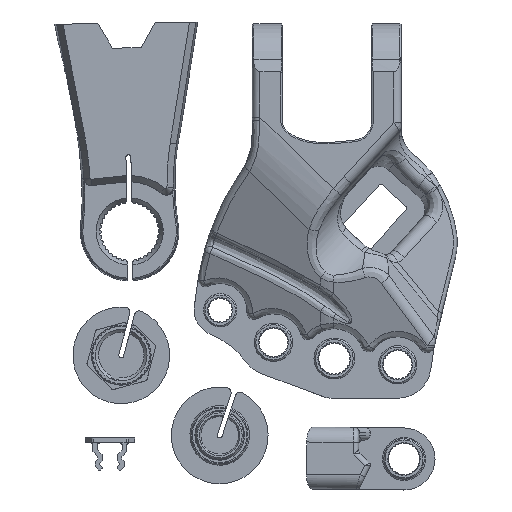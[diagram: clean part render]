
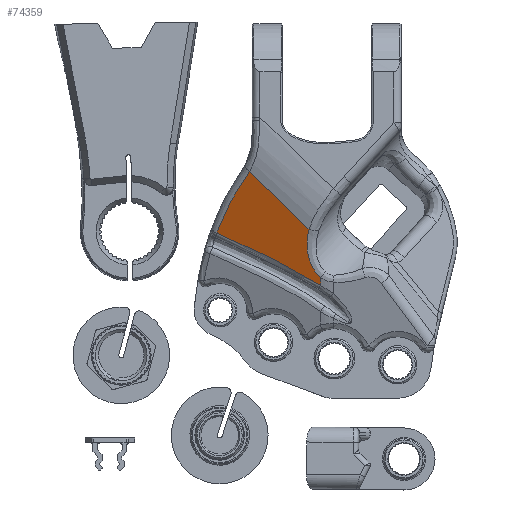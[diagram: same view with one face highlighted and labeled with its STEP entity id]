
A CAD part, top view. The second image highlights one B-rep face of the part: STEP entity #74359.
In plain terms, the highlighted planar face has unit normal (-0.259, -0.265, 0.929) as drawn and (0.259, 0.929, -0.265) by its records, which use the part's own axes.
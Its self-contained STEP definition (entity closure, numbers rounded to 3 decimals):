
#2359 = VERTEX_POINT ( 'NONE', #31658 ) ;
#2468 = CARTESIAN_POINT ( 'NONE',  ( 32.361, 35.515, -14.132 ) ) ;
#3181 = LINE ( 'NONE', #15465, #75759 ) ;
#3231 = CARTESIAN_POINT ( 'NONE',  ( 44.419, 25.636, -36.952 ) ) ;
#7090 = CARTESIAN_POINT ( 'NONE',  ( 30.099, 27.851, -43.166 ) ) ;
#7841 = CARTESIAN_POINT ( 'NONE',  ( 21.353, 29.036, -47.548 ) ) ;
#10307 = B_SPLINE_CURVE_WITH_KNOTS ( 'NONE', 3,
 ( #59610, #44482, #2468, #14774, #15136, #61516, #44095, #55335, #73758, #68003, #43710, #3231 ),
 .UNSPECIFIED., .F., .F.,
 ( 4, 2, 2, 2, 2, 4 ),
 ( 0., 0.004, 0.008, 0.015, 0.023, 0.031 ),
 .UNSPECIFIED. ) ;
#12658 = ORIENTED_EDGE ( 'NONE', *, *, #17133, .T. ) ;
#12860 = CARTESIAN_POINT ( 'NONE',  ( 37.178, 26.829, -39.836 ) ) ;
#12955 = ORIENTED_EDGE ( 'NONE', *, *, #53111, .T. ) ;
#13004 = CARTESIAN_POINT ( 'NONE',  ( -28.758, 36.438, -70.516 ) ) ;
#13014 = VECTOR ( 'NONE', #47370, 1000. ) ;
#13208 = ORIENTED_EDGE ( 'NONE', *, *, #25199, .T. ) ;
#13243 = CARTESIAN_POINT ( 'NONE',  ( 9.224, 30.592, -53.932 ) ) ;
#14774 = CARTESIAN_POINT ( 'NONE',  ( 33.668, 34.586, -16.11 ) ) ;
#15136 = CARTESIAN_POINT ( 'NONE',  ( 34.332, 34.121, -17.092 ) ) ;
#15465 = CARTESIAN_POINT ( 'NONE',  ( 2.543, 32.228, -54.721 ) ) ;
#15844 = FACE_OUTER_BOUND ( 'NONE', #17334, .T. ) ;
#16234 = PLANE ( 'NONE',  #31955 ) ;
#17133 = EDGE_CURVE ( 'NONE', #2359, #59320, #23812, .T. ) ;
#17334 = EDGE_LOOP ( 'NONE', ( #73541, #12955, #39387, #13208, #12658 ) ) ;
#19023 = CARTESIAN_POINT ( 'NONE',  ( 16.127, 29.727, -50.226 ) ) ;
#23812 = LINE ( 'NONE', #13004, #13014 ) ;
#25199 = EDGE_CURVE ( 'NONE', #34650, #2359, #52802, .T. ) ;
#30979 = CARTESIAN_POINT ( 'NONE',  ( 5.827, 30.976, -55.9 ) ) ;
#30985 = CARTESIAN_POINT ( 'NONE',  ( 31.135, 36.438, -12.099 ) ) ;
#31356 = CARTESIAN_POINT ( 'NONE',  ( 19.608, 29.269, -48.434 ) ) ;
#31658 = CARTESIAN_POINT ( 'NONE',  ( 7.196, 36.438, -35.448 ) ) ;
#31955 = AXIS2_PLACEMENT_3D ( 'NONE', #45577, #62958, #44795 ) ;
#32271 = CARTESIAN_POINT ( 'NONE',  ( 7.499, 32.07, -50.442 ) ) ;
#34650 = VERTEX_POINT ( 'NONE', #37295 ) ;
#37295 = CARTESIAN_POINT ( 'NONE',  ( 2.543, 32.189, -54.856 ) ) ;
#37662 = CARTESIAN_POINT ( 'NONE',  ( 2.543, 32.189, -54.856 ) ) ;
#39387 = ORIENTED_EDGE ( 'NONE', *, *, #66370, .T. ) ;
#43541 = EDGE_CURVE ( 'NONE', #59320, #73309, #10307, .T. ) ;
#43710 = CARTESIAN_POINT ( 'NONE',  ( 43.609, 26.489, -34.753 ) ) ;
#44095 = CARTESIAN_POINT ( 'NONE',  ( 37.594, 31.795, -22.049 ) ) ;
#44337 = B_SPLINE_CURVE_WITH_KNOTS ( 'NONE', 3,
 ( #65737, #12860, #7090, #7841, #31356, #19023, #66128, #13243, #30979, #54948 ),
 .UNSPECIFIED., .F., .F.,
 ( 4, 2, 2, 2, 4 ),
 ( 0., 0.024, 0.03, 0.035, 0.047 ),
 .UNSPECIFIED. ) ;
#44482 = CARTESIAN_POINT ( 'NONE',  ( 31.722, 35.979, -13.134 ) ) ;
#44795 = DIRECTION ( 'NONE',  ( 0., -0.275, -0.962 ) ) ;
#45577 = CARTESIAN_POINT ( 'NONE',  ( 0., 20., -100. ) ) ;
#47370 = DIRECTION ( 'NONE',  ( 0.716, 0., 0.698 ) ) ;
#47861 = CARTESIAN_POINT ( 'NONE',  ( 9.176, 33.6, -43.449 ) ) ;
#50632 = DIRECTION ( 'NONE',  ( 0., 0.275, 0.962 ) ) ;
#52802 =( BOUNDED_CURVE ( )  B_SPLINE_CURVE ( 3, ( #37662, #32271, #47861, #71352 ),
 .UNSPECIFIED., .F., .T. ) 
 B_SPLINE_CURVE_WITH_KNOTS ( ( 4, 4 ),
 ( 6.278, 7.235 ),
 .UNSPECIFIED. ) 
 CURVE ( )  GEOMETRIC_REPRESENTATION_ITEM ( )  RATIONAL_B_SPLINE_CURVE ( ( 1., 0.925, 0.925, 1. ) ) 
 REPRESENTATION_ITEM ( '' )  );
#53111 = EDGE_CURVE ( 'NONE', #73309, #67589, #44337, .T. ) ;
#53900 = CARTESIAN_POINT ( 'NONE',  ( 2.543, 31.274, -58.062 ) ) ;
#54948 = CARTESIAN_POINT ( 'NONE',  ( 2.543, 31.274, -58.062 ) ) ;
#55335 = CARTESIAN_POINT ( 'NONE',  ( 39.865, 29.985, -26.171 ) ) ;
#59320 = VERTEX_POINT ( 'NONE', #30985 ) ;
#59610 = CARTESIAN_POINT ( 'NONE',  ( 31.135, 36.438, -12.099 ) ) ;
#61516 = CARTESIAN_POINT ( 'NONE',  ( 36.302, 32.726, -20.053 ) ) ;
#62958 = DIRECTION ( 'NONE',  ( -0.259, -0.929, 0.265 ) ) ;
#65737 = CARTESIAN_POINT ( 'NONE',  ( 44.419, 25.636, -36.952 ) ) ;
#66128 = CARTESIAN_POINT ( 'NONE',  ( 14.392, 29.951, -51.134 ) ) ;
#66370 = EDGE_CURVE ( 'NONE', #67589, #34650, #3181, .T. ) ;
#67589 = VERTEX_POINT ( 'NONE', #53900 ) ;
#68003 = CARTESIAN_POINT ( 'NONE',  ( 42.736, 27.353, -32.58 ) ) ;
#70858 = CARTESIAN_POINT ( 'NONE',  ( 44.419, 25.636, -36.952 ) ) ;
#71352 = CARTESIAN_POINT ( 'NONE',  ( 7.196, 36.438, -35.448 ) ) ;
#73309 = VERTEX_POINT ( 'NONE', #70858 ) ;
#73541 = ORIENTED_EDGE ( 'NONE', *, *, #43541, .T. ) ;
#73758 = CARTESIAN_POINT ( 'NONE',  ( 40.864, 29.101, -28.29 ) ) ;
#74359 = ADVANCED_FACE ( 'NONE', ( #15844 ), #16234, .F. ) ;
#75759 = VECTOR ( 'NONE', #50632, 1000. ) ;
